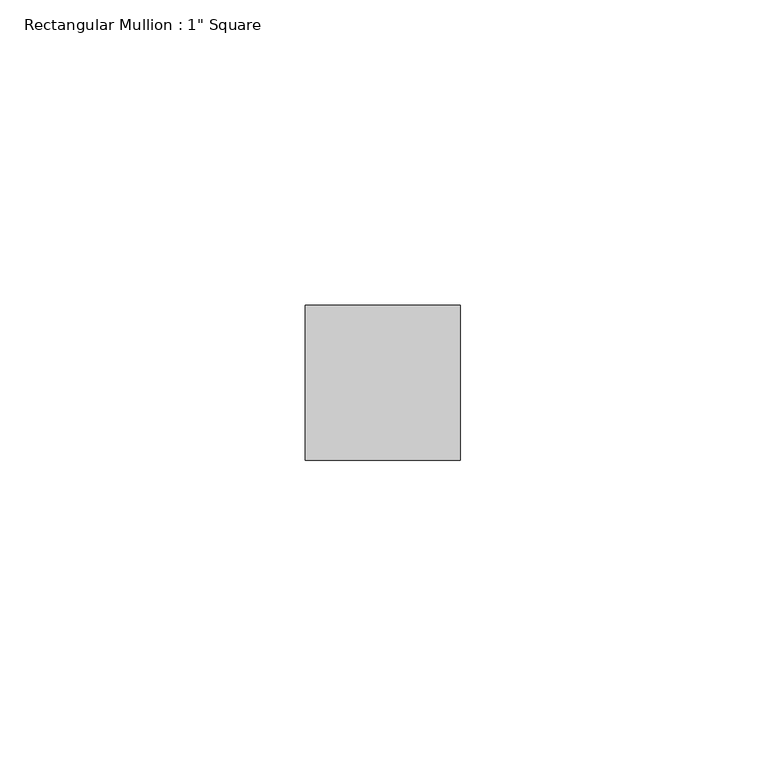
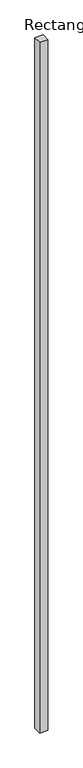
"""IFC4 building model written with IfcOpenShell, lengths in millimetres: member geometry."""

from ifc_helpers import new_model, si_unit, frame, origin, place, context, project, spatial, polyline, outline, extrude, source, transform, mapped, element, save


def member_c2c97b2d(model_context):
    return source(origin(), model_context, "Body", "SweptSolid", [
        extrude(outline(polyline([(12.7, 12.7), (12.7, -12.7), (-12.7, -12.7), (-12.7, 12.7), (12.7, 12.7)])), frame((0.0, 0.0, -2279.3001024), z_axis=(0.0, 0.0, 1.0), x_axis=(1.0, 0.0, 0.0)), (0.0, 0.0, 1.0), 2279.3001024),
    ])


if __name__ == "__main__":
    model = new_model("IFC4")
    model_context = context("Model", 3, world=origin())
    ifc_project = project(units=[si_unit("LENGTHUNIT", "METRE", prefix="MILLI")], contexts=[model_context])
    site = spatial("IfcSite", under=ifc_project)
    building = spatial("IfcBuilding", under=site)
    placement = place(None, origin())
    member_shape = member_c2c97b2d(model_context)
    element("IfcMember", 1, ObjectType="Rectangular Mullion : 1\" Square", at=placement, inside=building, context=model_context, shape_type="MappedRepresentation", body=[
        mapped(member_shape, transform((0.0, 0.0, 0.0), x_axis=(1.0, 0.0, 0.0), y_axis=(0.0, 1.0, 0.0), z_axis=(0.0, 0.0, 1.0))),
    ])
    save(model, "model.ifc")
